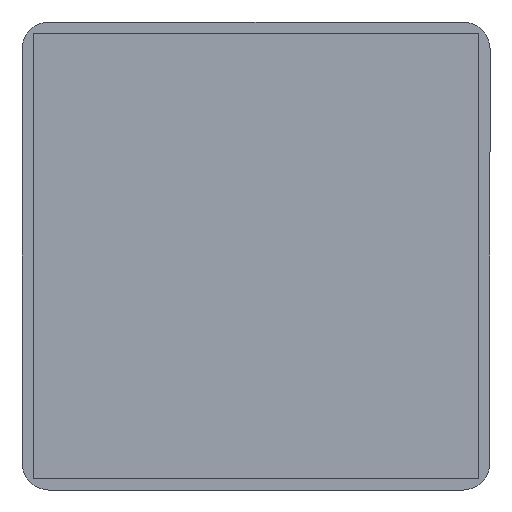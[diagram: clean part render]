
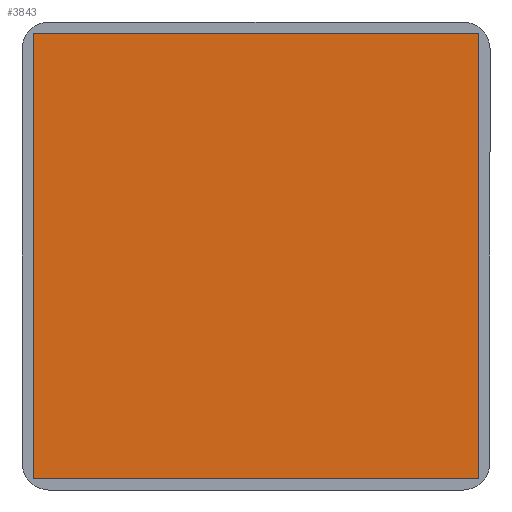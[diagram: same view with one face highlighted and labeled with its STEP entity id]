
A CAD part, front view. The second image highlights one B-rep face of the part: STEP entity #3843.
In plain terms, the highlighted planar face has unit normal (0, -1, 0).
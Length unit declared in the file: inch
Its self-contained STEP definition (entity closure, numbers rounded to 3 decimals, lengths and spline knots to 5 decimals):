
#23 = FACE_OUTER_BOUND ( 'NONE', #3644, .T. ) ;
#264 = EDGE_CURVE ( 'NONE', #11068, #4235, #7672, .T. ) ;
#2067 = CARTESIAN_POINT ( 'NONE',  ( 0.64961, -0.005, 0.64961 ) ) ;
#2237 = ORIENTED_EDGE ( 'NONE', *, *, #264, .T. ) ;
#2480 = LINE ( 'NONE', #5697, #5838 ) ;
#3439 = VERTEX_POINT ( 'NONE', #9398 ) ;
#3644 = EDGE_LOOP ( 'NONE', ( #2237, #7963, #4120, #8258 ) ) ;
#3843 = ADVANCED_FACE ( 'NONE', ( #23 ), #4197, .T. ) ;
#4120 = ORIENTED_EDGE ( 'NONE', *, *, #5600, .T. ) ;
#4197 = PLANE ( 'NONE',  #7693 ) ;
#4235 = VERTEX_POINT ( 'NONE', #9208 ) ;
#4316 = DIRECTION ( 'NONE',  ( -1., 0., 0. ) ) ;
#4340 = EDGE_CURVE ( 'NONE', #4235, #3439, #8397, .T. ) ;
#4540 = CARTESIAN_POINT ( 'NONE',  ( -0.64961, -0.005, -0.64961 ) ) ;
#4618 = DIRECTION ( 'NONE',  ( 0., 0., 1. ) ) ;
#4747 = CARTESIAN_POINT ( 'NONE',  ( 0.64961, -0.005, -0.64961 ) ) ;
#4806 = VERTEX_POINT ( 'NONE', #4540 ) ;
#5600 = EDGE_CURVE ( 'NONE', #3439, #4806, #2480, .T. ) ;
#5697 = CARTESIAN_POINT ( 'NONE',  ( -0.64961, -0.005, -0.64961 ) ) ;
#5838 = VECTOR ( 'NONE', #9697, 39.37008 ) ;
#7672 = LINE ( 'NONE', #4747, #7752 ) ;
#7693 = AXIS2_PLACEMENT_3D ( 'NONE', #2067, #12429, #8344 ) ;
#7752 = VECTOR ( 'NONE', #4618, 39.37008 ) ;
#7963 = ORIENTED_EDGE ( 'NONE', *, *, #4340, .T. ) ;
#8258 = ORIENTED_EDGE ( 'NONE', *, *, #10269, .T. ) ;
#8341 = CARTESIAN_POINT ( 'NONE',  ( 0.64961, -0.005, -0.64961 ) ) ;
#8344 = DIRECTION ( 'NONE',  ( 0., 0., 1. ) ) ;
#8397 = LINE ( 'NONE', #9459, #13124 ) ;
#9208 = CARTESIAN_POINT ( 'NONE',  ( 0.64961, -0.005, 0.64961 ) ) ;
#9398 = CARTESIAN_POINT ( 'NONE',  ( -0.64961, -0.005, 0.64961 ) ) ;
#9421 = VECTOR ( 'NONE', #13120, 39.37008 ) ;
#9459 = CARTESIAN_POINT ( 'NONE',  ( 0.64961, -0.005, 0.64961 ) ) ;
#9697 = DIRECTION ( 'NONE',  ( 0., 0., -1. ) ) ;
#10269 = EDGE_CURVE ( 'NONE', #4806, #11068, #11376, .T. ) ;
#10358 = CARTESIAN_POINT ( 'NONE',  ( 0.64961, -0.005, -0.64961 ) ) ;
#11068 = VERTEX_POINT ( 'NONE', #8341 ) ;
#11376 = LINE ( 'NONE', #10358, #9421 ) ;
#12429 = DIRECTION ( 'NONE',  ( 0., -1., 0. ) ) ;
#13120 = DIRECTION ( 'NONE',  ( 1., 0., 0. ) ) ;
#13124 = VECTOR ( 'NONE', #4316, 39.37008 ) ;
